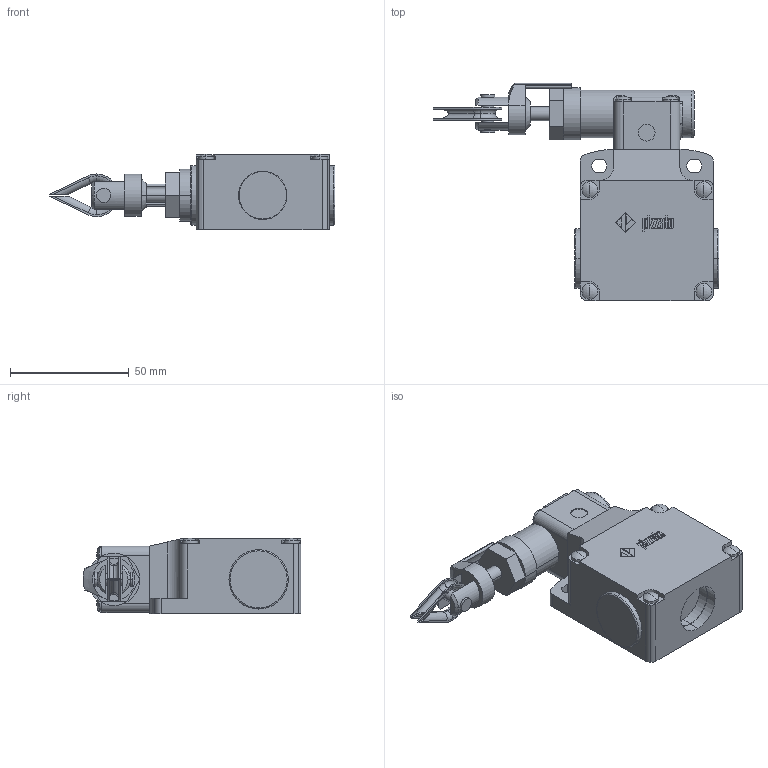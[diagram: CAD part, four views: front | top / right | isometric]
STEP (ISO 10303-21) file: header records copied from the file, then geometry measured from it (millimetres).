
FILE_DESCRIPTION (( 'STEP AP214' ), '1' );
FILE_NAME ('ZF_STEP_FL_x80_A10.step', '2014-04-10T09:07:10', ( 'utente' ), ( 'Microsoft' ), 'SwSTEP 2.0', 'SolidWorks 2013', '' );
FILE_SCHEMA (( 'AUTOMOTIVE_DESIGN' ));
Length unit declared in the file: millimetre
Products named in the file (7): ZF_STEP_VF_T80_A10; Pizzato_Tirante_T80_T83_T84; Pizzato_Redance_T78-83-84; Pizzato_Supporto_T80-T83-T84_T84-S1; Pizzato_Tappo_Protezione_PG13_M20_PG13; Pizzato_Custodia_FL; ZF_STEP_FL_x80_A10
Assembly tree (7 placements, depth 3):
  ZF_STEP_FL_x80_A10
    Pizzato_Custodia_FL
    Pizzato_Tappo_Protezione_PG13_M20_PG13  x2
    ZF_STEP_VF_T80_A10
      Pizzato_Supporto_T80-T83-T84_T84-S1
      Pizzato_Redance_T78-83-84
      Pizzato_Tirante_T80_T83_T84
Bounding box: 120.4 x 91.75 x 31.8 mm (x, y, z)
Volume: 131844.5 mm3; surface area: 31167.8 mm2
Topology: 6 solids, 6 shells, 566 faces, 1439 edges, 944 vertices
Faces by surface type: plane 307, cylinder 141, bspline 75, torus 21, sphere 16, cone 6
Entity records: 20803 total; most frequent: CARTESIAN_POINT 7278, ORIENTED_EDGE 2846, DIRECTION 2575, EDGE_CURVE 1423, VERTEX_POINT 934, VECTOR 897, LINE 897, AXIS2_PLACEMENT_3D 839
